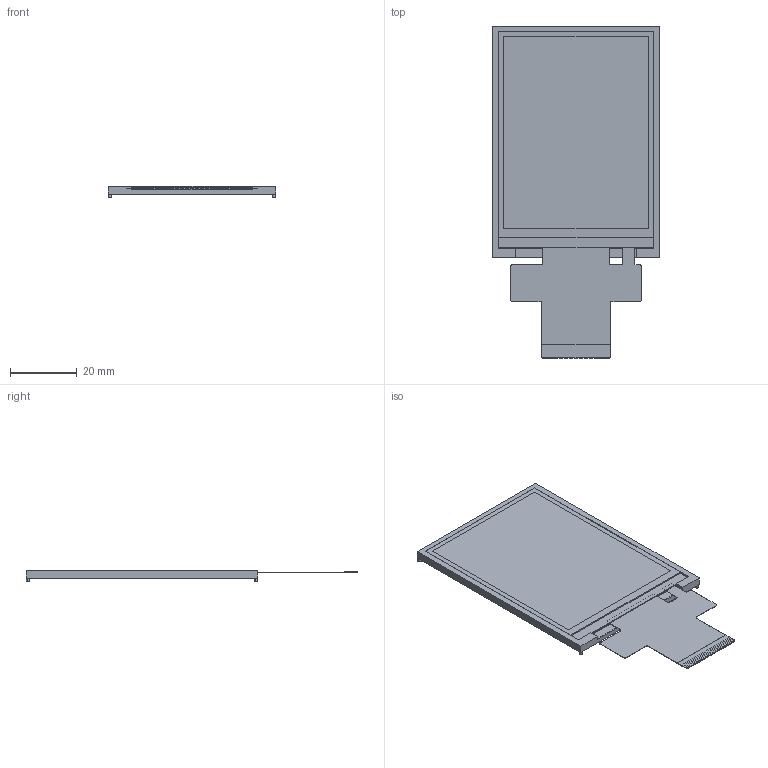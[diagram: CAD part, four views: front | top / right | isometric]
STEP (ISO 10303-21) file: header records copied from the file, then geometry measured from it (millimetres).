
FILE_DESCRIPTION (( 'STEP AP214' ), '1' );
FILE_NAME ('NHD-2.8-240320AF-CSXP-F.STEP', '2018-08-30T19:32:42', ( '' ), ( '' ), 'SwSTEP 2.0', 'SolidWorks 2018', '' );
FILE_SCHEMA (( 'AUTOMOTIVE_DESIGN' ));
Length unit declared in the file: millimetre
Products named in the file (1): NHD-2.8-240320AF-CSXP-F
Bounding box: 50 x 99.2 x 3.4 mm (x, y, z)
Volume: 9866.7 mm3; surface area: 15409.2 mm2
Topology: 3 solids, 3 shells, 240 faces, 690 edges, 458 vertices
Faces by surface type: plane 222, cylinder 18
Entity records: 7782 total; most frequent: CARTESIAN_POINT 1389, ORIENTED_EDGE 1380, DIRECTION 1208, EDGE_CURVE 690, LINE 654, VECTOR 654, VERTEX_POINT 458, AXIS2_PLACEMENT_3D 277
